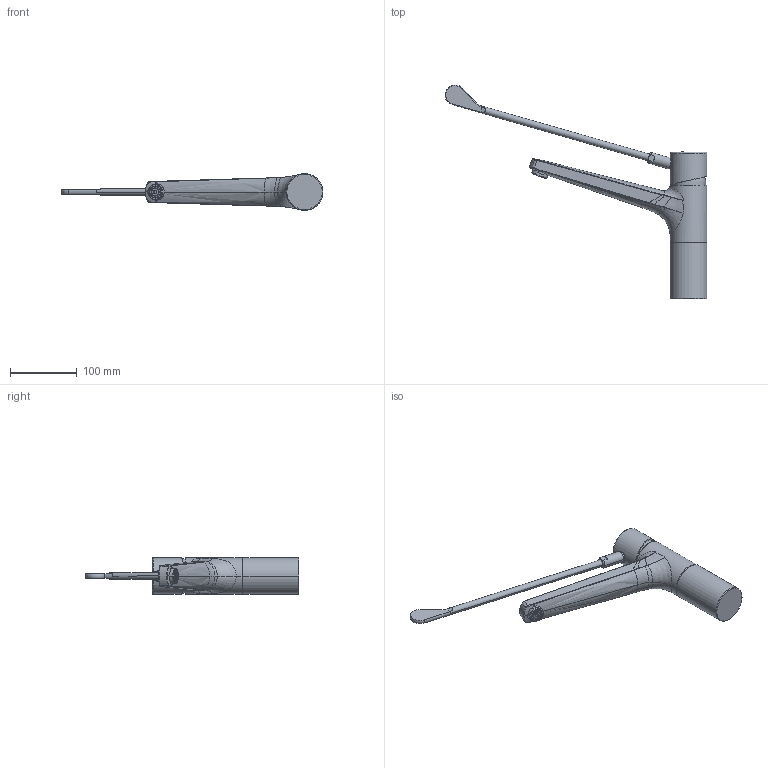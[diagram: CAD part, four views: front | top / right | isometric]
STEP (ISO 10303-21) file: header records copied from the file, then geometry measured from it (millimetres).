
FILE_DESCRIPTION((''),'2;1');
FILE_NAME('506923_SW0001','2024-07-24T15:06:16',('BS983'),(''),'CREO PARAMETRIC BY PTC INC, 2022244','CREO PARAMETRIC BY PTC INC, 2022244','');
FILE_SCHEMA(('CONFIG_CONTROL_DESIGN'));
Length unit declared in the file: millimetre
Products named in the file (1): 506923_SW0001
Bounding box: 392.59 x 320.85 x 55 mm (x, y, z)
Volume: 720919.6 mm3; surface area: 101705.4 mm2
Topology: 4 solids, 16 shells, 543 faces, 1228 edges, 736 vertices
Faces by surface type: bspline 156, plane 141, cylinder 121, torus 67, sphere 31, cone 25, extrusion 2
Entity records: 23407 total; most frequent: CARTESIAN_POINT 12137, ORIENTED_EDGE 2452, DIRECTION 2202, EDGE_CURVE 1226, AXIS2_PLACEMENT_3D 947, VERTEX_POINT 736, EDGE_LOOP 566, CIRCLE 560
